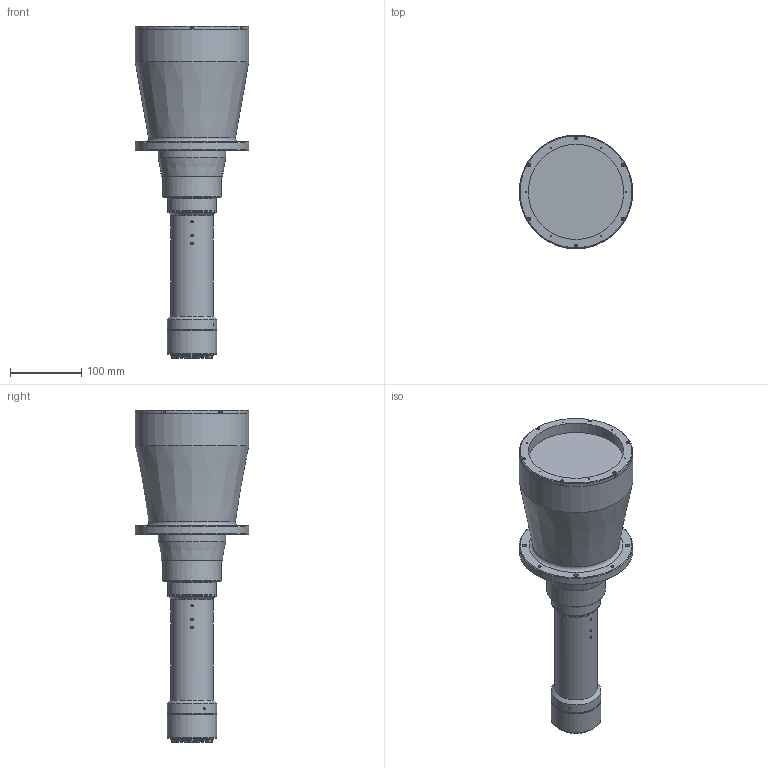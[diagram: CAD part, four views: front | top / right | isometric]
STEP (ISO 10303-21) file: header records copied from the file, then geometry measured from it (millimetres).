
FILE_DESCRIPTION (( 'STEP AP203' ), '1' );
FILE_NAME ('3d_mtl-12043M58-036_a002.STEP', '2017-06-20T01:41:35', ( '' ), ( '' ), 'SwSTEP 2.0', 'SolidWorks 2014', '' );
FILE_SCHEMA (( 'CONFIG_CONTROL_DESIGN' ));
Length unit declared in the file: millimetre
Products named in the file (1): 3d_mtl-12043M58-036_a002
Bounding box: 160 x 160 x 467.21 mm (x, y, z)
Volume: 3759902.7 mm3; surface area: 213656.9 mm2
Topology: 1 solids, 9 shells, 726 faces, 1680 edges, 1027 vertices
Faces by surface type: plane 424, cone 184, cylinder 82, torus 28, sphere 8
Full cylindrical faces by diameter (mm): 1.5 x6, 1.6 x4, 2.5 x3, 3.2 x4, 3.5 x8, 4.2 x4, 4.4 x6, 5.5 x4, 6 x4, 6.5 x4, 51 x2, 52 x2, 55 x1, 56.4 x1, 57 x2, 57.2 x1, 57.5 x1, 58 x2, 60 x1, 61 x1, 68 x2, 68.936 x1, 69.5 x1, 70 x2, 73 x1, 82 x1, 95 x1, 134 x1, 159.5 x1, 160 x2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
Entity records: 19949 total; most frequent: CARTESIAN_POINT 4479, DIRECTION 3322, ORIENTED_EDGE 2872, EDGE_CURVE 1436, AXIS2_PLACEMENT_3D 1345, EDGE_LOOP 980, VERTEX_POINT 952, FACE_OUTER_BOUND 835
